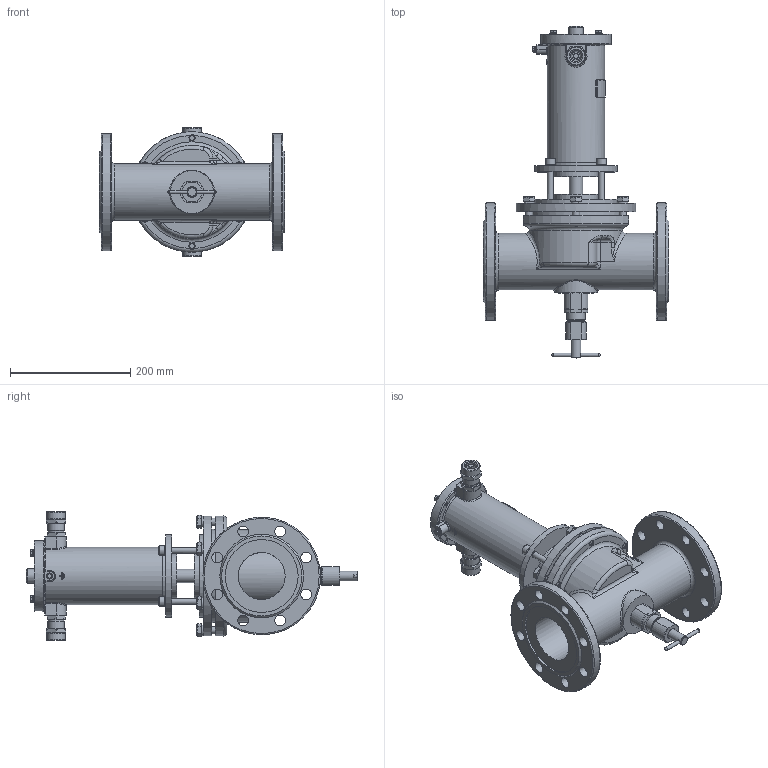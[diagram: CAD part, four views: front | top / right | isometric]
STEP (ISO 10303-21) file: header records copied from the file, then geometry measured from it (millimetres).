
FILE_DESCRIPTION(('STEP AP203'), '1');
FILE_NAME('ÑÅÍÑ DN80PN25-Â-ÍÎ-200Ñ-ÑÂ.stp', '2018-09-19T08:54:05', ('Îðëîâ Å.Â.'), ('ÎÎÎ ÍÏÏ Ñåíñîð'), 'ASCON STEP Converter 1.3', 'Kompas 3D', '');
FILE_SCHEMA(('CONFIG_CONTROL_DESIGN','SUPPORT_RESOURCE_SCHEMA'));
Length unit declared in the file: millimetre
Products named in the file (1): 96
Bounding box: 308 x 551.5 x 214 mm (x, y, z)
Volume: 3520901.4 mm3; surface area: 781910.6 mm2
Topology: 3 solids, 24 shells, 2155 faces, 5686 edges, 3669 vertices
Faces by surface type: cylinder 1052, plane 812, cone 161, bspline 56, torus 50, extrusion 16, sphere 8
Full cylindrical faces by diameter (mm): 3.5 x2, 4.134 x1, 4.917 x7, 5 x1, 6 x9, 6.5 x4, 8 x8, 8.2 x1, 8.376 x4, 9 x1, 10 x5, 10.106 x6, 11 x5, 12 x10, 13 x8, 16 x6, 17 x2, 18 x17, 18.632 x2, 20 x3, 22 x3, 22.376 x2, 23 x1, 23.5 x2, 24 x3, 24.5 x2, 26 x4, 26.376 x2, 27.8 x1, 28 x3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
Entity records: 85664 total; most frequent: CARTESIAN_POINT 31386, DIRECTION 11687, ORIENTED_EDGE 11296, EDGE_CURVE 5648, AXIS2_PLACEMENT_3D 4508, VERTEX_POINT 3669, VECTOR 2671, LINE 2655
